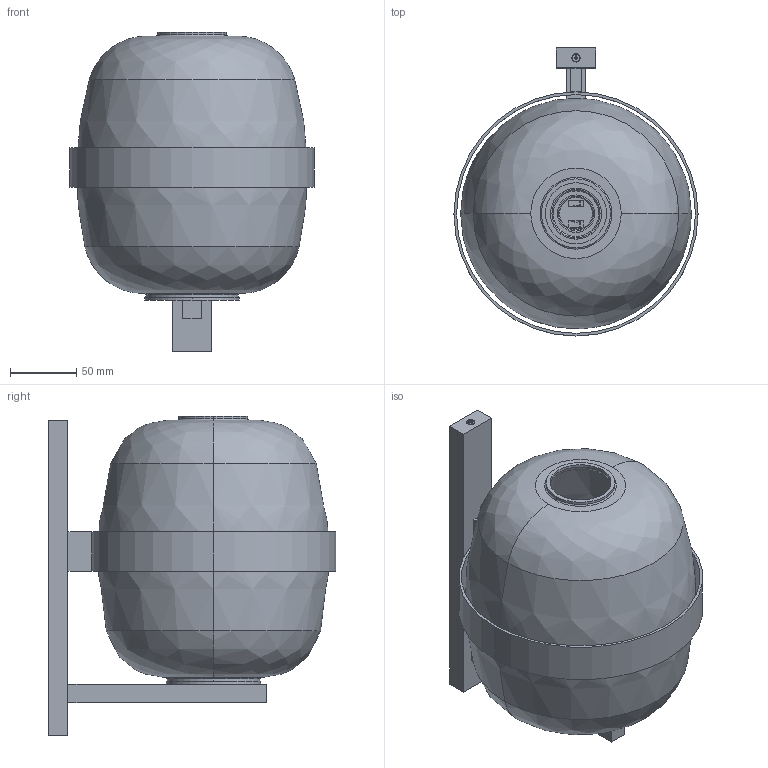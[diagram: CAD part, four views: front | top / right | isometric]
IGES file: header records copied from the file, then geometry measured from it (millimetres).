
Start section: SolidWorks IGES file using analytic representation for surfaces
Global section: file name: C:\Users\maria.romani\Desktop\WALLY\3D\Wally_3D.IGS; native system: SolidWorks 2013; preprocessor: SolidWorks 2013; author: maria.romani; date: 150702.164415; units: millimetre
Bounding box: 184 x 217 x 241 mm (x, y, z)
Volume: 450201.6 mm3; surface area: 364482.1 mm2
Topology: 16 solids, 16 shells, 571 faces, 2824 edges, 3682 vertices
Faces by surface type: plane 289, revolution 282
